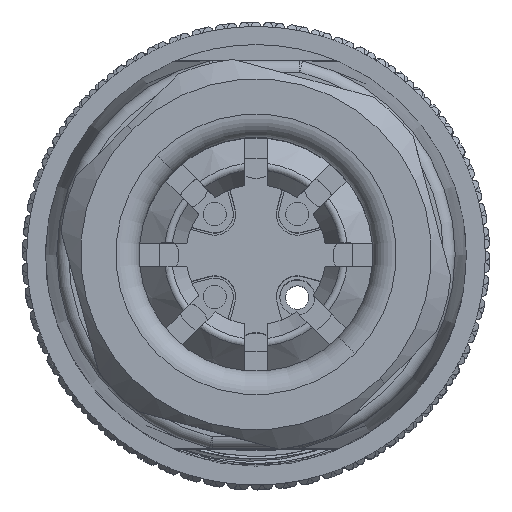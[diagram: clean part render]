
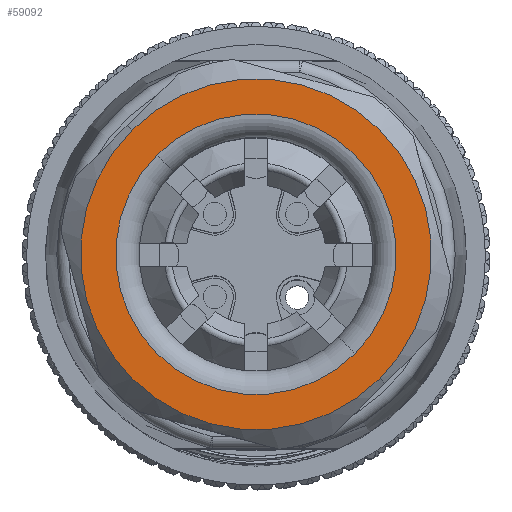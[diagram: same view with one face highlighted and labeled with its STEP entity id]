
A CAD part, top view. The second image highlights one B-rep face of the part: STEP entity #59092.
In plain terms, the highlighted planar face has unit normal (0, 0, 1).
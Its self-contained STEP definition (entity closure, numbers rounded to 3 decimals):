
#22533=CARTESIAN_POINT('',(0.,0.,
39.975));
#22534=DIRECTION('',(0.,0.,-1.));
#22535=DIRECTION('',(0.707,-0.707,0.));
#22536=AXIS2_PLACEMENT_3D('',#22533,#22534,#22535);
#22538=CARTESIAN_POINT('',(0.,0.,
39.975));
#22539=DIRECTION('',(0.,0.,-1.));
#22540=DIRECTION('',(-0.707,0.707,0.));
#22541=AXIS2_PLACEMENT_3D('',#22538,#22539,#22540);
#22543=CARTESIAN_POINT('',(0.,0.,
39.975));
#22544=DIRECTION('',(0.,0.,1.));
#22545=DIRECTION('',(-0.707,0.707,0.));
#22546=AXIS2_PLACEMENT_3D('',#22543,#22544,#22545);
#22548=CARTESIAN_POINT('',(0.,0.,
39.975));
#22549=DIRECTION('',(0.,0.,1.));
#22550=DIRECTION('',(0.707,-0.707,0.));
#22551=AXIS2_PLACEMENT_3D('',#22548,#22549,#22550);
#34077=CARTESIAN_POINT('',(4.243,-4.243,
39.975));
#34078=CARTESIAN_POINT('',(-4.243,4.243,
39.975));
#34079=VERTEX_POINT('',#34077);
#34080=VERTEX_POINT('',#34078);
#34081=CARTESIAN_POINT('',(5.308,-5.308,
39.975));
#34083=VERTEX_POINT('',#34081);
#34085=CARTESIAN_POINT('',(-5.308,5.308,
39.975));
#34087=VERTEX_POINT('',#34085);
#59076=CARTESIAN_POINT('',(0.,0.,
39.975));
#59077=DIRECTION('',(0.,0.,-1.));
#59078=DIRECTION('',(0.707,-0.707,0.));
#59079=AXIS2_PLACEMENT_3D('',#59076,#59077,#59078);
#59080=PLANE('',#59079);
#59082=ORIENTED_EDGE('',*,*,#59081,.F.);
#59083=ORIENTED_EDGE('',*,*,#59055,.F.);
#59084=EDGE_LOOP('',(#59082,#59083));
#59085=FACE_OUTER_BOUND('',#59084,.F.);
#59087=ORIENTED_EDGE('',*,*,#59086,.F.);
#59089=ORIENTED_EDGE('',*,*,#59088,.F.);
#59090=EDGE_LOOP('',(#59087,#59089));
#59091=FACE_BOUND('',#59090,.F.);
#59092=ADVANCED_FACE('',(#59085,#59091),#59080,.F.);
#22537=CIRCLE('',#22536,6.);
#22542=CIRCLE('',#22541,6.);
#22547=CIRCLE('',#22546,7.507);
#22552=CIRCLE('',#22551,7.507);
#59055=EDGE_CURVE('',#34083,#34087,#22552,.T.);
#59081=EDGE_CURVE('',#34087,#34083,#22547,.T.);
#59086=EDGE_CURVE('',#34079,#34080,#22537,.T.);
#59088=EDGE_CURVE('',#34080,#34079,#22542,.T.);
